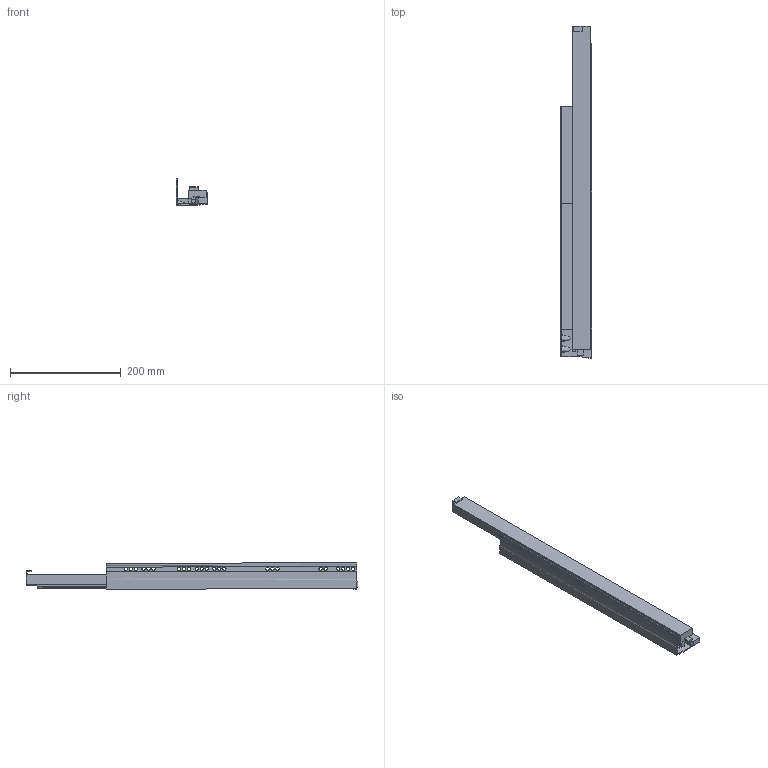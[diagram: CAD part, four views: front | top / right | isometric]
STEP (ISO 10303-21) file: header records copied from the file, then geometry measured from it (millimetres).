
FILE_DESCRIPTION (( 'STEP AP214' ), '1' );
FILE_NAME ('_IMOS_Dynapro_Softclose_D516_NL_600_LI.step', '2010-07-16T06:01:39', ( 'grass' ), ( '' ), 'SwSTEP 2.0', 'SolidWorks 2009', '' );
FILE_SCHEMA (( 'AUTOMOTIVE_DESIGN' ));
Length unit declared in the file: millimetre
Products named in the file (1): _IMOS_Dynapro_Softclose_D516_NL_600_LI
Bounding box: 57.08 x 600.07 x 47.86 mm (x, y, z)
Volume: 522653.9 mm3; surface area: 172036.5 mm2
Topology: 1 solids, 1 shells, 130 faces, 439 edges, 307 vertices
Faces by surface type: plane 75, cylinder 48, bspline 7
Entity records: 5647 total; most frequent: CARTESIAN_POINT 1591, ORIENTED_EDGE 870, DIRECTION 797, EDGE_CURVE 435, LINE 315, VECTOR 315, VERTEX_POINT 307, AXIS2_PLACEMENT_3D 241
